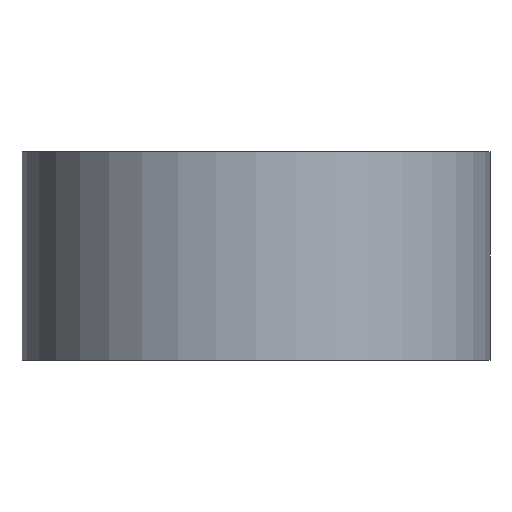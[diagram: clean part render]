
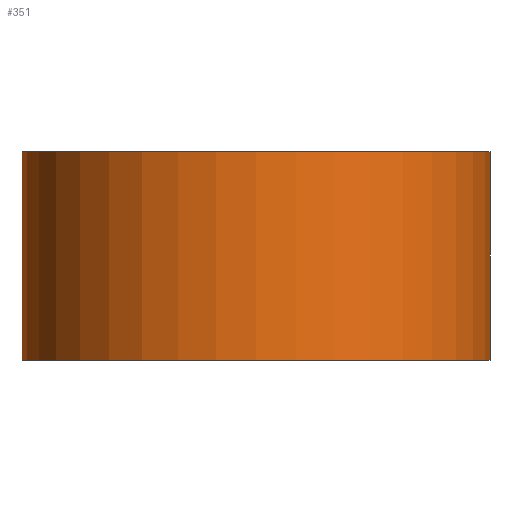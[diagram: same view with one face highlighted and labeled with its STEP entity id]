
A CAD part, front view. The second image highlights one B-rep face of the part: STEP entity #351.
In plain terms, the highlighted cylindrical face has radius 18 mm (diameter 36 mm), a partial arc.
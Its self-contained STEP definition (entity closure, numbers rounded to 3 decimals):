
#24=CYLINDRICAL_SURFACE('',#411,18.);
#42=CIRCLE('',#393,18.);
#49=CIRCLE('',#405,18.);
#68=FACE_OUTER_BOUND('',#95,.T.);
#95=EDGE_LOOP('',(#311,#312,#313,#314));
#108=LINE('',#551,#137);
#125=LINE('',#612,#154);
#137=VECTOR('',#442,10.);
#154=VECTOR('',#513,10.);
#167=VERTEX_POINT('',#548);
#168=VERTEX_POINT('',#550);
#174=VERTEX_POINT('',#570);
#182=VERTEX_POINT('',#596);
#200=EDGE_CURVE('',#168,#167,#108,.T.);
#210=EDGE_CURVE('',#168,#174,#42,.T.);
#224=EDGE_CURVE('',#182,#167,#49,.T.);
#231=EDGE_CURVE('',#174,#182,#125,.T.);
#311=ORIENTED_EDGE('',*,*,#200,.T.);
#312=ORIENTED_EDGE('',*,*,#224,.F.);
#313=ORIENTED_EDGE('',*,*,#231,.F.);
#314=ORIENTED_EDGE('',*,*,#210,.F.);
#351=ADVANCED_FACE('',(#68),#24,.T.);
#393=AXIS2_PLACEMENT_3D('',#571,#464,#465);
#405=AXIS2_PLACEMENT_3D('',#598,#495,#496);
#411=AXIS2_PLACEMENT_3D('',#611,#511,#512);
#442=DIRECTION('',(0.,0.,1.));
#464=DIRECTION('center_axis',(0.,0.,-1.));
#465=DIRECTION('ref_axis',(-0.955,0.296,0.));
#495=DIRECTION('center_axis',(0.,0.,1.));
#496=DIRECTION('ref_axis',(-0.955,0.296,0.));
#511=DIRECTION('center_axis',(0.,0.,1.));
#512=DIRECTION('ref_axis',(0.,-1.,0.));
#513=DIRECTION('',(0.,0.,1.));
#548=CARTESIAN_POINT('',(17.192,5.333,8.));
#550=CARTESIAN_POINT('',(17.192,5.333,-8.));
#551=CARTESIAN_POINT('',(17.192,5.333,0.));
#570=CARTESIAN_POINT('',(-17.192,5.333,-8.));
#571=CARTESIAN_POINT('Origin',(0.,0.,-8.));
#596=CARTESIAN_POINT('',(-17.192,5.333,8.));
#598=CARTESIAN_POINT('Origin',(0.,0.,8.));
#611=CARTESIAN_POINT('Origin',(0.,0.,0.));
#612=CARTESIAN_POINT('',(-17.192,5.333,0.));
